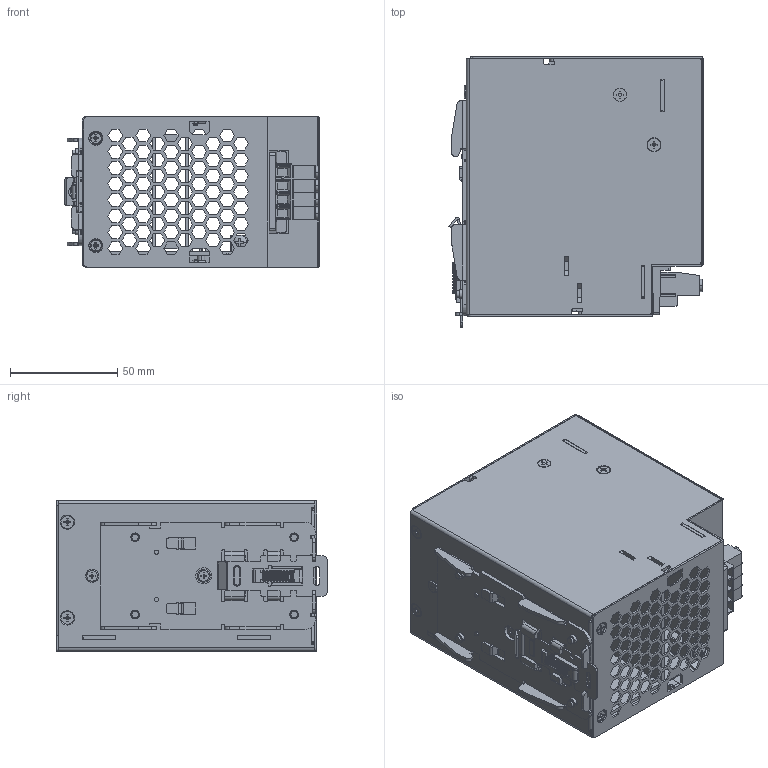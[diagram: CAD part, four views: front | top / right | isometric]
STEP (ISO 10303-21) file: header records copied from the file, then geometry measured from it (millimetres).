
FILE_DESCRIPTION((''),'2;1');
FILE_NAME('DRP024V240W3BA_ASM','2013-01-29T',('Warud'),(''),'PRO/ENGINEER BY PARAMETRIC TECHNOLOGY CORPORATION, 2010180','PRO/ENGINEER BY PARAMETRIC TECHNOLOGY CORPORATION, 2010180','');
FILE_SCHEMA(('CONFIG_CONTROL_DESIGN','SHAPE_APPEARANCE_LAYERS_GROUPS'));
Products named in the file (37): 330315490101; 330315460000; 326356030000; 326838880000; 346130370000; 346008810000; 346202620000; ASSY_LATCH_50X100_ASM; 347205340101; 2958056502_PWB_MAIN; 3470422400; 346155020000; 3352085700_PCB-2_6-32; LED_HOLDER; EE_LED750; ASSY_LED750_ASM; EE_VR550; 2968151802_DCT-1518; 3350940600; 307662607W_A_PRT0001; 307662607W_A_PRT0002; 307662607W_ASM; 2968159601_DCT-1596; ASSY_DCT-1596_ASM; ASSY_DCT-1518_ASM; 2968151902_DCT-1519; ASSY_DCT-1519_ASM; 2968152002_DCT-1520; ASSY_DCT-1520_ASM; 2968152102_DCT-1521; 307301357W; ASSY_DCT-1521_ASM; ASSY_PWB_DRP024V240W3BA_ASM; 3103380800_6-32; 3105465600; 3105320000; DRP024V240W3BA_ASM
Assembly tree (52 placements, depth 5):
  DRP024V240W3BA_ASM
    330315490101
    330315460000
    326356030000
    326838880000
    ASSY_LATCH_50X100_ASM
      346130370000
      346008810000
      346202620000
    347205340101
    ASSY_PWB_DRP024V240W3BA_ASM
      2958056502_PWB_MAIN
      3470422400  x4
      346155020000
      3352085700_PCB-2_6-32
      ASSY_LED750_ASM
        LED_HOLDER
        EE_LED750
      EE_VR550
      ASSY_DCT-1518_ASM
        2968151802_DCT-1518
        3350940600
        307662607W_ASM
          307662607W_A_PRT0001  x2
          307662607W_A_PRT0002  x2
        ASSY_DCT-1596_ASM
          2968159601_DCT-1596
      ASSY_DCT-1519_ASM
        2968151902_DCT-1519
      ASSY_DCT-1520_ASM
        2968152002_DCT-1520
      ASSY_DCT-1521_ASM
        2968152102_DCT-1521
        307301357W
    3103380800_6-32
    3105465600  x2
    3105320000  x11
Bounding box: 118.49 x 126 x 70.08 mm (x, y, z)
Volume: 129204.3 mm3; surface area: 217614.2 mm2
Topology: 45 solids, 45 shells, 6051 faces, 16227 edges, 10387 vertices
Faces by surface type: plane 4179, cylinder 925, extrusion 569, cone 166, bspline 132, torus 50, sphere 30
Entity records: 211168 total; most frequent: CARTESIAN_POINT 42429, ORIENTED_EDGE 28258, DIRECTION 24580, EDGE_CURVE 14129, PRESENTATION_STYLE_ASSIGNMENT 11805, STYLED_ITEM 11665, CURVE_STYLE 11534, VECTOR 11360
